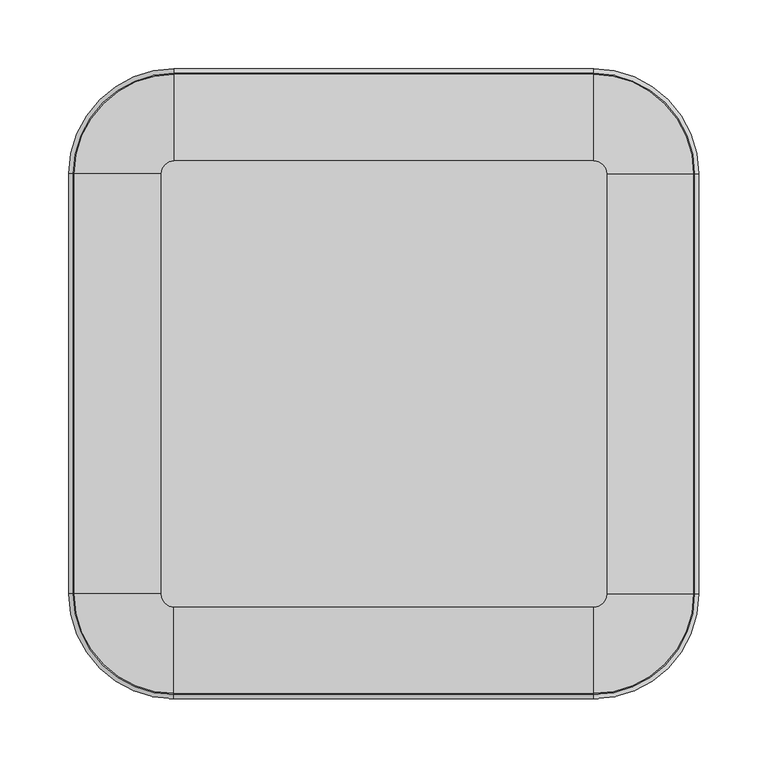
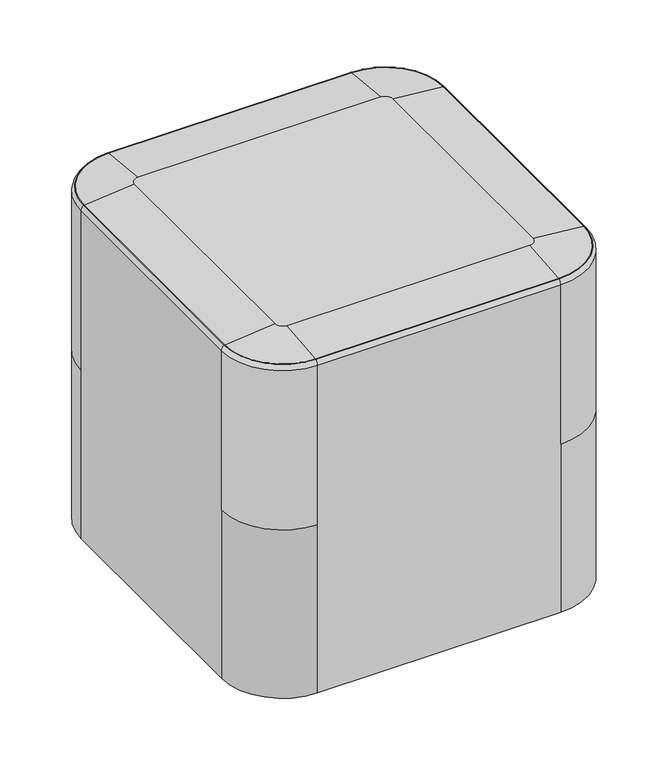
"""IFC4 building model written with IfcOpenShell, lengths in millimetres: furniture geometry, Indiana-Otty-Ottoman_Square : 840-1818SO."""

from ifc_helpers import new_model, si_unit, point, frame, origin, place, context, project, spatial, polyline, circle_curve, ellipse_curve, trimmed, source, transform, mapped, element, save
from ifc_brep_helpers import plane_surface, cylinder_surface, revolved_surface, advanced_brep


def furniture_ea124245(model_context):
    return source(origin(), model_context, "Body", "AdvancedBrep", [
        advanced_brep(
        [(174.625, -174.625, 19.8875), (174.625, -197.125, 19.8875), (174.625, -152.125, 19.8875), (174.625, -196.6765082, 4.2458827), (174.625, -152.5734918, 4.2458827), (174.625, -192.1913665, -0.1125), (174.625, -157.0586335, -0.1125), (174.625, -184.8926178, -0.1125), (174.625, -164.3573822, -0.1125), (174.625, -180.9981417, 3.9179615), (174.625, -168.2518583, 3.9179615), (174.625, -174.625, 3.9179615)],
        [
            (0, 1),
            (1, 2, circle_curve(frame((174.625, -174.625, 19.8875), z_axis=(0.0, 0.0, 1.0), x_axis=(0.0, -1.0, 0.0)), 22.5)),
            (2, 0),
            (2, 1, circle_curve(frame((174.625, -174.625, 19.8875), z_axis=(0.0, 0.0, 1.0), x_axis=(0.0, -1.0, 0.0)), 22.5)),
            (1, 3),
            (3, 4, circle_curve(frame((174.625, -174.625, 4.2458827), z_axis=(0.0, 0.0, 1.0), x_axis=(0.0, -1.0, 0.0)), 22.0515082)),
            (4, 2),
            (4, 3, circle_curve(frame((174.625, -174.625, 4.2458827), z_axis=(0.0, 0.0, 1.0), x_axis=(0.0, -1.0, 0.0)), 22.0515082)),
            (3, 5, circle_curve(frame((174.625, -192.1913665, 4.3744851), z_axis=(1.0, 0.0, 0.0), x_axis=(0.0, 1.0, 0.0)), 4.4869851)),
            (5, 6, circle_curve(frame((174.625, -174.625, -0.1125), z_axis=(0.0, 0.0, 1.0), x_axis=(0.0, -1.0, 0.0)), 17.5663665)),
            (6, 4, circle_curve(frame((174.625, -157.0586335, 4.3744851), z_axis=(1.0, 0.0, 0.0), x_axis=(0.0, -1.0, 0.0)), 4.4869851)),
            (6, 5, circle_curve(frame((174.625, -174.625, -0.1125), z_axis=(0.0, 0.0, 1.0), x_axis=(0.0, -1.0, 0.0)), 17.5663665)),
            (5, 7),
            (7, 8, circle_curve(frame((174.625, -174.625, -0.1125), z_axis=(0.0, 0.0, 1.0), x_axis=(0.0, -1.0, 0.0)), 10.2676178)),
            (8, 6),
            (8, 7, circle_curve(frame((174.625, -174.625, -0.1125), z_axis=(0.0, 0.0, 1.0), x_axis=(0.0, -1.0, 0.0)), 10.2676178)),
            (7, 9, circle_curve(frame((174.625, -184.8926178, 3.7842702), z_axis=(1.0, 0.0, 0.0), x_axis=(0.0, 1.0, 0.0)), 3.8967702)),
            (9, 10, circle_curve(frame((174.625, -174.625, 3.9179615), z_axis=(0.0, 0.0, 1.0), x_axis=(0.0, -1.0, 0.0)), 6.3731417)),
            (10, 8, circle_curve(frame((174.625, -164.3573822, 3.7842702), z_axis=(1.0, 0.0, 0.0), x_axis=(0.0, -1.0, 0.0)), 3.8967702)),
            (10, 9, circle_curve(frame((174.625, -174.625, 3.9179615), z_axis=(0.0, 0.0, 1.0), x_axis=(0.0, -1.0, 0.0)), 6.3731417)),
            (9, 11),
            (11, 10),
        ],
        [
            plane_surface(frame((174.625, -174.625, 19.8875), z_axis=(0.0, 0.0, 1.0), x_axis=(0.0, -1.0, 0.0))),
            revolved_surface(polyline([(174.625, -196.6765082, 4.2458827), (174.625, -197.125, 19.8875)]), (174.625, -174.625, 31.0803862), (0.0, 0.0, 1.0)),
            revolved_surface(trimmed(ellipse_curve(frame((174.625, -192.1913665, 4.3744851), z_axis=(-1.0, 0.0, 0.0), x_axis=(0.0, 1.0, 0.0)), 4.4869851, 4.4869851), [point((174.625, -192.1913665, -0.1125))], [point((174.625, -196.6765082, 4.2458827))], True, "CARTESIAN"), (174.625, -174.625, 31.0803862), (0.0, 0.0, 1.0)),
            plane_surface(frame((174.625, -174.625, -0.1125), z_axis=(0.0, 0.0, -1.0), x_axis=(0.0, -1.0, 0.0))),
            revolved_surface(trimmed(ellipse_curve(frame((174.625, -184.8926178, 3.7842702), z_axis=(-1.0, 0.0, 0.0), x_axis=(0.0, 1.0, 0.0)), 3.8967702, 3.8967702), [point((174.625, -180.9981417, 3.9179615))], [point((174.625, -184.8926178, -0.1125))], True, "CARTESIAN"), (174.625, -174.625, 31.0803862), (0.0, 0.0, 1.0)),
            plane_surface(frame((174.625, -174.625, 3.9179615), z_axis=(0.0, 0.0, -1.0), x_axis=(0.0, -1.0, 0.0))),
        ],
        [
            (0, [[1, 2, 3]]),
            (0, [[-3, 4, -1]]),
            (1, [[-2, 5, 6, 7]]),
            (1, [[-4, -7, 8, -5]]),
            (2, [[-6, 9, 10, 11]]),
            (2, [[-8, -11, 12, -9]]),
            (3, [[-10, 13, 14, 15]]),
            (3, [[-12, -15, 16, -13]]),
            (4, [[-14, 17, 18, 19]]),
            (4, [[-16, -19, 20, -17]]),
            (5, [[-18, 21, 22]]),
            (5, [[-20, -22, -21]]),
        ],
    ),
        advanced_brep(
        [(174.625, 174.625, 19.8875), (174.625, 152.125, 19.8875), (174.625, 197.125, 19.8875), (174.625, 152.5734918, 4.2458827), (174.625, 196.6765082, 4.2458827), (174.625, 157.0586335, -0.1125), (174.625, 192.1913665, -0.1125), (174.625, 164.3573822, -0.1125), (174.625, 184.8926178, -0.1125), (174.625, 168.2518583, 3.9179615), (174.625, 180.9981417, 3.9179615), (174.625, 174.625, 3.9179615)],
        [
            (0, 1),
            (1, 2, circle_curve(frame((174.625, 174.625, 19.8875), z_axis=(0.0, 0.0, 1.0), x_axis=(0.0, -1.0, 0.0)), 22.5)),
            (2, 0),
            (2, 1, circle_curve(frame((174.625, 174.625, 19.8875), z_axis=(0.0, 0.0, 1.0), x_axis=(0.0, -1.0, 0.0)), 22.5)),
            (1, 3),
            (3, 4, circle_curve(frame((174.625, 174.625, 4.2458827), z_axis=(0.0, 0.0, 1.0), x_axis=(0.0, -1.0, 0.0)), 22.0515082)),
            (4, 2),
            (4, 3, circle_curve(frame((174.625, 174.625, 4.2458827), z_axis=(0.0, 0.0, 1.0), x_axis=(0.0, -1.0, 0.0)), 22.0515082)),
            (3, 5, circle_curve(frame((174.625, 157.0586335, 4.3744851), z_axis=(1.0, 0.0, 0.0), x_axis=(0.0, 1.0, 0.0)), 4.4869851)),
            (5, 6, circle_curve(frame((174.625, 174.625, -0.1125), z_axis=(0.0, 0.0, 1.0), x_axis=(0.0, -1.0, 0.0)), 17.5663665)),
            (6, 4, circle_curve(frame((174.625, 192.1913665, 4.3744851), z_axis=(1.0, 0.0, 0.0), x_axis=(0.0, -1.0, 0.0)), 4.4869851)),
            (6, 5, circle_curve(frame((174.625, 174.625, -0.1125), z_axis=(0.0, 0.0, 1.0), x_axis=(0.0, -1.0, 0.0)), 17.5663665)),
            (5, 7),
            (7, 8, circle_curve(frame((174.625, 174.625, -0.1125), z_axis=(0.0, 0.0, 1.0), x_axis=(0.0, -1.0, 0.0)), 10.2676178)),
            (8, 6),
            (8, 7, circle_curve(frame((174.625, 174.625, -0.1125), z_axis=(0.0, 0.0, 1.0), x_axis=(0.0, -1.0, 0.0)), 10.2676178)),
            (7, 9, circle_curve(frame((174.625, 164.3573822, 3.7842702), z_axis=(1.0, 0.0, 0.0), x_axis=(0.0, 1.0, 0.0)), 3.8967702)),
            (9, 10, circle_curve(frame((174.625, 174.625, 3.9179615), z_axis=(0.0, 0.0, 1.0), x_axis=(0.0, -1.0, 0.0)), 6.3731417)),
            (10, 8, circle_curve(frame((174.625, 184.8926178, 3.7842702), z_axis=(1.0, 0.0, 0.0), x_axis=(0.0, -1.0, 0.0)), 3.8967702)),
            (10, 9, circle_curve(frame((174.625, 174.625, 3.9179615), z_axis=(0.0, 0.0, 1.0), x_axis=(0.0, -1.0, 0.0)), 6.3731417)),
            (9, 11),
            (11, 10),
        ],
        [
            plane_surface(frame((174.625, 174.625, 19.8875), z_axis=(0.0, 0.0, 1.0), x_axis=(0.0, -1.0, 0.0))),
            revolved_surface(polyline([(174.625, 152.5734918, 4.2458827), (174.625, 152.125, 19.8875)]), (174.625, 174.625, 31.0803862), (0.0, 0.0, 1.0)),
            revolved_surface(trimmed(ellipse_curve(frame((174.625, 157.0586335, 4.3744851), z_axis=(-1.0, 0.0, 0.0), x_axis=(0.0, 1.0, 0.0)), 4.4869851, 4.4869851), [point((174.625, 157.0586335, -0.1125))], [point((174.625, 152.5734918, 4.2458827))], True, "CARTESIAN"), (174.625, 174.625, 31.0803862), (0.0, 0.0, 1.0)),
            plane_surface(frame((174.625, 174.625, -0.1125), z_axis=(0.0, 0.0, -1.0), x_axis=(0.0, -1.0, 0.0))),
            revolved_surface(trimmed(ellipse_curve(frame((174.625, 164.3573822, 3.7842702), z_axis=(-1.0, 0.0, 0.0), x_axis=(0.0, 1.0, 0.0)), 3.8967702, 3.8967702), [point((174.625, 168.2518583, 3.9179615))], [point((174.625, 164.3573822, -0.1125))], True, "CARTESIAN"), (174.625, 174.625, 31.0803862), (0.0, 0.0, 1.0)),
            plane_surface(frame((174.625, 174.625, 3.9179615), z_axis=(0.0, 0.0, -1.0), x_axis=(0.0, -1.0, 0.0))),
        ],
        [
            (0, [[1, 2, 3]]),
            (0, [[-3, 4, -1]]),
            (1, [[-2, 5, 6, 7]]),
            (1, [[-4, -7, 8, -5]]),
            (2, [[-6, 9, 10, 11]]),
            (2, [[-8, -11, 12, -9]]),
            (3, [[-10, 13, 14, 15]]),
            (3, [[-12, -15, 16, -13]]),
            (4, [[-14, 17, 18, 19]]),
            (4, [[-16, -19, 20, -17]]),
            (5, [[-18, 21, 22]]),
            (5, [[-20, -22, -21]]),
        ],
    ),
        advanced_brep(
        [(-174.625, -174.625, 19.8875), (-174.625, -197.125, 19.8875), (-174.625, -152.125, 19.8875), (-174.625, -196.6765082, 4.2458827), (-174.625, -152.5734918, 4.2458827), (-174.625, -192.1913665, -0.1125), (-174.625, -157.0586335, -0.1125), (-174.625, -184.8926178, -0.1125), (-174.625, -164.3573822, -0.1125), (-174.625, -180.9981417, 3.9179615), (-174.625, -168.2518583, 3.9179615), (-174.625, -174.625, 3.9179615)],
        [
            (0, 1),
            (1, 2, circle_curve(frame((-174.625, -174.625, 19.8875), z_axis=(0.0, 0.0, 1.0), x_axis=(0.0, -1.0, 0.0)), 22.5)),
            (2, 0),
            (2, 1, circle_curve(frame((-174.625, -174.625, 19.8875), z_axis=(0.0, 0.0, 1.0), x_axis=(0.0, -1.0, 0.0)), 22.5)),
            (1, 3),
            (3, 4, circle_curve(frame((-174.625, -174.625, 4.2458827), z_axis=(0.0, 0.0, 1.0), x_axis=(0.0, -1.0, 0.0)), 22.0515082)),
            (4, 2),
            (4, 3, circle_curve(frame((-174.625, -174.625, 4.2458827), z_axis=(0.0, 0.0, 1.0), x_axis=(0.0, -1.0, 0.0)), 22.0515082)),
            (3, 5, circle_curve(frame((-174.625, -192.1913665, 4.3744851), z_axis=(1.0, 0.0, 0.0), x_axis=(0.0, 1.0, 0.0)), 4.4869851)),
            (5, 6, circle_curve(frame((-174.625, -174.625, -0.1125), z_axis=(0.0, 0.0, 1.0), x_axis=(0.0, -1.0, 0.0)), 17.5663665)),
            (6, 4, circle_curve(frame((-174.625, -157.0586335, 4.3744851), z_axis=(1.0, 0.0, 0.0), x_axis=(0.0, -1.0, 0.0)), 4.4869851)),
            (6, 5, circle_curve(frame((-174.625, -174.625, -0.1125), z_axis=(0.0, 0.0, 1.0), x_axis=(0.0, -1.0, 0.0)), 17.5663665)),
            (5, 7),
            (7, 8, circle_curve(frame((-174.625, -174.625, -0.1125), z_axis=(0.0, 0.0, 1.0), x_axis=(0.0, -1.0, 0.0)), 10.2676178)),
            (8, 6),
            (8, 7, circle_curve(frame((-174.625, -174.625, -0.1125), z_axis=(0.0, 0.0, 1.0), x_axis=(0.0, -1.0, 0.0)), 10.2676178)),
            (7, 9, circle_curve(frame((-174.625, -184.8926178, 3.7842702), z_axis=(1.0, 0.0, 0.0), x_axis=(0.0, 1.0, 0.0)), 3.8967702)),
            (9, 10, circle_curve(frame((-174.625, -174.625, 3.9179615), z_axis=(0.0, 0.0, 1.0), x_axis=(0.0, -1.0, 0.0)), 6.3731417)),
            (10, 8, circle_curve(frame((-174.625, -164.3573822, 3.7842702), z_axis=(1.0, 0.0, 0.0), x_axis=(0.0, -1.0, 0.0)), 3.8967702)),
            (10, 9, circle_curve(frame((-174.625, -174.625, 3.9179615), z_axis=(0.0, 0.0, 1.0), x_axis=(0.0, -1.0, 0.0)), 6.3731417)),
            (9, 11),
            (11, 10),
        ],
        [
            plane_surface(frame((-174.625, -174.625, 19.8875), z_axis=(0.0, 0.0, 1.0), x_axis=(0.0, -1.0, 0.0))),
            revolved_surface(polyline([(-174.625, -196.6765082, 4.2458827), (-174.625, -197.125, 19.8875)]), (-174.625, -174.625, 31.0803862), (0.0, 0.0, 1.0)),
            revolved_surface(trimmed(ellipse_curve(frame((-174.625, -192.1913665, 4.3744851), z_axis=(-1.0, 0.0, 0.0), x_axis=(0.0, 1.0, 0.0)), 4.4869851, 4.4869851), [point((-174.625, -192.1913665, -0.1125))], [point((-174.625, -196.6765082, 4.2458827))], True, "CARTESIAN"), (-174.625, -174.625, 31.0803862), (0.0, 0.0, 1.0)),
            plane_surface(frame((-174.625, -174.625, -0.1125), z_axis=(0.0, 0.0, -1.0), x_axis=(0.0, -1.0, 0.0))),
            revolved_surface(trimmed(ellipse_curve(frame((-174.625, -184.8926178, 3.7842702), z_axis=(-1.0, 0.0, 0.0), x_axis=(0.0, 1.0, 0.0)), 3.8967702, 3.8967702), [point((-174.625, -180.9981417, 3.9179615))], [point((-174.625, -184.8926178, -0.1125))], True, "CARTESIAN"), (-174.625, -174.625, 31.0803862), (0.0, 0.0, 1.0)),
            plane_surface(frame((-174.625, -174.625, 3.9179615), z_axis=(0.0, 0.0, -1.0), x_axis=(0.0, -1.0, 0.0))),
        ],
        [
            (0, [[1, 2, 3]]),
            (0, [[-3, 4, -1]]),
            (1, [[-2, 5, 6, 7]]),
            (1, [[-4, -7, 8, -5]]),
            (2, [[-6, 9, 10, 11]]),
            (2, [[-8, -11, 12, -9]]),
            (3, [[-10, 13, 14, 15]]),
            (3, [[-12, -15, 16, -13]]),
            (4, [[-14, 17, 18, 19]]),
            (4, [[-16, -19, 20, -17]]),
            (5, [[-18, 21, 22]]),
            (5, [[-20, -22, -21]]),
        ],
    ),
        advanced_brep(
        [(-174.625, 174.625, 19.8875), (-174.625, 152.125, 19.8875), (-174.625, 197.125, 19.8875), (-174.625, 152.5734918, 4.2458827), (-174.625, 196.6765082, 4.2458827), (-174.625, 157.0586335, -0.1125), (-174.625, 192.1913665, -0.1125), (-174.625, 164.3573822, -0.1125), (-174.625, 184.8926178, -0.1125), (-174.625, 168.2518583, 3.9179615), (-174.625, 180.9981417, 3.9179615), (-174.625, 174.625, 3.9179615)],
        [
            (0, 1),
            (1, 2, circle_curve(frame((-174.625, 174.625, 19.8875), z_axis=(0.0, 0.0, 1.0), x_axis=(0.0, -1.0, 0.0)), 22.5)),
            (2, 0),
            (2, 1, circle_curve(frame((-174.625, 174.625, 19.8875), z_axis=(0.0, 0.0, 1.0), x_axis=(0.0, -1.0, 0.0)), 22.5)),
            (1, 3),
            (3, 4, circle_curve(frame((-174.625, 174.625, 4.2458827), z_axis=(0.0, 0.0, 1.0), x_axis=(0.0, -1.0, 0.0)), 22.0515082)),
            (4, 2),
            (4, 3, circle_curve(frame((-174.625, 174.625, 4.2458827), z_axis=(0.0, 0.0, 1.0), x_axis=(0.0, -1.0, 0.0)), 22.0515082)),
            (3, 5, circle_curve(frame((-174.625, 157.0586335, 4.3744851), z_axis=(1.0, 0.0, 0.0), x_axis=(0.0, 1.0, 0.0)), 4.4869851)),
            (5, 6, circle_curve(frame((-174.625, 174.625, -0.1125), z_axis=(0.0, 0.0, 1.0), x_axis=(0.0, -1.0, 0.0)), 17.5663665)),
            (6, 4, circle_curve(frame((-174.625, 192.1913665, 4.3744851), z_axis=(1.0, 0.0, 0.0), x_axis=(0.0, -1.0, 0.0)), 4.4869851)),
            (6, 5, circle_curve(frame((-174.625, 174.625, -0.1125), z_axis=(0.0, 0.0, 1.0), x_axis=(0.0, -1.0, 0.0)), 17.5663665)),
            (5, 7),
            (7, 8, circle_curve(frame((-174.625, 174.625, -0.1125), z_axis=(0.0, 0.0, 1.0), x_axis=(0.0, -1.0, 0.0)), 10.2676178)),
            (8, 6),
            (8, 7, circle_curve(frame((-174.625, 174.625, -0.1125), z_axis=(0.0, 0.0, 1.0), x_axis=(0.0, -1.0, 0.0)), 10.2676178)),
            (7, 9, circle_curve(frame((-174.625, 164.3573822, 3.7842702), z_axis=(1.0, 0.0, 0.0), x_axis=(0.0, 1.0, 0.0)), 3.8967702)),
            (9, 10, circle_curve(frame((-174.625, 174.625, 3.9179615), z_axis=(0.0, 0.0, 1.0), x_axis=(0.0, -1.0, 0.0)), 6.3731417)),
            (10, 8, circle_curve(frame((-174.625, 184.8926178, 3.7842702), z_axis=(1.0, 0.0, 0.0), x_axis=(0.0, -1.0, 0.0)), 3.8967702)),
            (10, 9, circle_curve(frame((-174.625, 174.625, 3.9179615), z_axis=(0.0, 0.0, 1.0), x_axis=(0.0, -1.0, 0.0)), 6.3731417)),
            (9, 11),
            (11, 10),
        ],
        [
            plane_surface(frame((-174.625, 174.625, 19.8875), z_axis=(0.0, 0.0, 1.0), x_axis=(0.0, -1.0, 0.0))),
            revolved_surface(polyline([(-174.625, 152.5734918, 4.2458827), (-174.625, 152.125, 19.8875)]), (-174.625, 174.625, 31.0803862), (0.0, 0.0, 1.0)),
            revolved_surface(trimmed(ellipse_curve(frame((-174.625, 157.0586335, 4.3744851), z_axis=(-1.0, 0.0, 0.0), x_axis=(0.0, 1.0, 0.0)), 4.4869851, 4.4869851), [point((-174.625, 157.0586335, -0.1125))], [point((-174.625, 152.5734918, 4.2458827))], True, "CARTESIAN"), (-174.625, 174.625, 31.0803862), (0.0, 0.0, 1.0)),
            plane_surface(frame((-174.625, 174.625, -0.1125), z_axis=(0.0, 0.0, -1.0), x_axis=(0.0, -1.0, 0.0))),
            revolved_surface(trimmed(ellipse_curve(frame((-174.625, 164.3573822, 3.7842702), z_axis=(-1.0, 0.0, 0.0), x_axis=(0.0, 1.0, 0.0)), 3.8967702, 3.8967702), [point((-174.625, 168.2518583, 3.9179615))], [point((-174.625, 164.3573822, -0.1125))], True, "CARTESIAN"), (-174.625, 174.625, 31.0803862), (0.0, 0.0, 1.0)),
            plane_surface(frame((-174.625, 174.625, 3.9179615), z_axis=(0.0, 0.0, -1.0), x_axis=(0.0, -1.0, 0.0))),
        ],
        [
            (0, [[1, 2, 3]]),
            (0, [[-3, 4, -1]]),
            (1, [[-2, 5, 6, 7]]),
            (1, [[-4, -7, 8, -5]]),
            (2, [[-6, 9, 10, 11]]),
            (2, [[-8, -11, 12, -9]]),
            (3, [[-10, 13, 14, 15]]),
            (3, [[-12, -15, 16, -13]]),
            (4, [[-14, 17, 18, 19]]),
            (4, [[-16, -19, 20, -17]]),
            (5, [[-18, 21, 22]]),
            (5, [[-20, -22, -21]]),
        ],
    ),
        advanced_brep(
        [(224.6, 152.4, 451.1999966), (152.4, 224.6, 451.1999966), (152.4, 161.925, 457.2), (161.925, 152.4, 457.2), (225.3317905, 152.4, 451.4073863), (152.4, 225.3317905, 451.4073863), (228.6, 152.4, 445.2), (152.4, 228.6, 445.2), (228.6, 152.4, 234.35), (152.4, 228.6, 234.35), (161.925, -152.4, 457.2), (224.6, -152.4, 451.1999966), (225.3317905, -152.4, 451.4073863), (228.6, -152.4, 445.2), (228.6, -152.4, 234.35), (228.6, -152.4, 11.5), (228.6, 152.4, 11.5), (152.4, -161.925, 457.2), (152.4, -224.6, 451.1999966), (152.4, -225.3317905, 451.4073863), (152.4, -228.6, 445.2), (152.4, -228.6, 234.35), (-152.4, -161.925, 457.2), (-152.4, -224.6, 451.1999966), (-152.4, -225.3317905, 451.4073863), (-152.4, -228.6, 445.2), (-152.4, -228.6, 234.35), (-152.4, -228.6, 11.5), (152.4, -228.6, 11.5), (-161.925, -152.4, 457.2), (-224.6, -152.4, 451.1999966), (-225.3317905, -152.4, 451.4073863), (-228.6, -152.4, 445.2), (-228.6, -152.4, 234.35), (-161.925, 152.4, 457.2), (-224.6, 152.4, 451.1999966), (-225.3317905, 152.4, 451.4073863), (-228.6, 152.4, 445.2), (-228.6, 152.4, 234.35), (-228.6, 152.4, 11.5), (-228.6, -152.4, 11.5), (-152.4, 161.925, 457.2), (-152.4, 224.6, 451.1999966), (-152.4, 225.3317905, 451.4073863), (-152.4, 228.6, 445.2), (-152.4, 228.6, 234.35), (152.4, 228.6, 11.5), (-152.4, 228.6, 11.5), (-197.64375, -174.625, 11.5), (-151.60625, -174.625, 11.5), (-197.64375, 174.625, 11.5), (-151.60625, 174.625, 11.5), (151.60625, 174.625, 11.5), (197.64375, 174.625, 11.5), (151.60625, -174.625, 11.5), (197.64375, -174.625, 11.5), (-0.396875, 174.625, 11.5), (0.396875, 174.625, 11.5), (-0.396875, -174.625, 11.5), (0.396875, -174.625, 11.5), (-151.60625, -174.625, 19.834375), (-197.64375, -174.625, 19.834375), (-151.60625, 174.625, 19.834375), (-197.64375, 174.625, 19.834375), (151.60625, 174.625, 19.834375), (197.64375, 174.625, 19.834375), (151.60625, -174.625, 19.834375), (197.64375, -174.625, 19.834375), (-0.396875, 174.625, 11.896875), (0.396875, 174.625, 11.896875), (-0.396875, -174.625, 11.896875), (0.396875, -174.625, 11.896875)],
        [
            (0, 1, circle_curve(frame((152.4, 152.4, 451.1999966), z_axis=(0.0, 0.0, 1.0), x_axis=(0.0, 1.0, 0.0)), 72.2)),
            (1, 2, circle_curve(frame((152.4, 161.925, 126.8538794), z_axis=(1.0, 0.0, 0.0), x_axis=(0.0, 1.0, 0.0)), 330.3461206)),
            (2, 3, circle_curve(frame((152.4, 152.4, 457.2), z_axis=(0.0, 0.0, -1.0), x_axis=(0.0, 1.0, 0.0)), 9.525)),
            (3, 0, circle_curve(frame((161.925, 152.4, 126.8538794), z_axis=(0.0, 1.0, 0.0), x_axis=(1.0, 0.0, 0.0)), 330.3461206)),
            (0, 4, circle_curve(frame((225.0520185, 152.4, 450.999799), z_axis=(0.0, 1.0, 0.0), x_axis=(1.0, 0.0, 0.0)), 0.4943681)),
            (4, 5, circle_curve(frame((152.4, 152.4, 451.4073863), z_axis=(0.0, 0.0, 1.0), x_axis=(0.0, 1.0, 0.0)), 72.9317905)),
            (5, 1, circle_curve(frame((152.4, 225.0520185, 450.999799), z_axis=(1.0, 0.0, 0.0), x_axis=(0.0, 1.0, 0.0)), 0.4943681)),
            (4, 6, circle_curve(frame((221.0709786, 152.4, 445.2), z_axis=(0.0, 1.0, 0.0), x_axis=(1.0, 0.0, 0.0)), 7.5290214)),
            (6, 7, circle_curve(frame((152.4, 152.4, 445.2), z_axis=(0.0, 0.0, 1.0), x_axis=(0.0, 1.0, 0.0)), 76.2)),
            (7, 5, circle_curve(frame((152.4, 221.0709786, 445.2), z_axis=(1.0, 0.0, 0.0), x_axis=(0.0, 1.0, 0.0)), 7.5290214)),
            (6, 8),
            (8, 9, circle_curve(frame((152.4, 152.4, 234.35), z_axis=(0.0, 0.0, 1.0), x_axis=(0.0, 1.0, 0.0)), 76.2)),
            (9, 7),
            (3, 10),
            (10, 11, circle_curve(frame((161.925, -152.4, 126.8538794), z_axis=(0.0, 1.0, 0.0), x_axis=(1.0, 0.0, 0.0)), 330.3461206)),
            (11, 0),
            (11, 12, circle_curve(frame((225.0520185, -152.4, 450.999799), z_axis=(0.0, 1.0, 0.0), x_axis=(1.0, 0.0, 0.0)), 0.4943681)),
            (12, 4),
            (12, 13, circle_curve(frame((221.0709786, -152.4, 445.2), z_axis=(0.0, 1.0, 0.0), x_axis=(1.0, 0.0, 0.0)), 7.5290214)),
            (13, 6),
            (13, 14),
            (14, 15),
            (15, 16),
            (16, 8),
            (10, 17, circle_curve(frame((152.4, -152.4, 457.2), z_axis=(0.0, 0.0, -1.0), x_axis=(1.0, 0.0, 0.0)), 9.525)),
            (17, 18, circle_curve(frame((152.4, -161.925, 126.8538794), z_axis=(1.0, 0.0, 0.0), x_axis=(0.0, -1.0, 0.0)), 330.3461206)),
            (18, 11, circle_curve(frame((152.4, -152.4, 451.1999966), z_axis=(0.0, 0.0, 1.0), x_axis=(1.0, 0.0, 0.0)), 72.2)),
            (18, 19, circle_curve(frame((152.4, -225.0520185, 450.999799), z_axis=(1.0, 0.0, 0.0), x_axis=(0.0, -1.0, 0.0)), 0.4943681)),
            (19, 12, circle_curve(frame((152.4, -152.4, 451.4073863), z_axis=(0.0, 0.0, 1.0), x_axis=(1.0, 0.0, 0.0)), 72.9317905)),
            (19, 20, circle_curve(frame((152.4, -221.0709786, 445.2), z_axis=(1.0, 0.0, 0.0), x_axis=(0.0, -1.0, 0.0)), 7.5290214)),
            (20, 13, circle_curve(frame((152.4, -152.4, 445.2), z_axis=(0.0, 0.0, 1.0), x_axis=(1.0, 0.0, 0.0)), 76.2)),
            (20, 21),
            (21, 14, circle_curve(frame((152.4, -152.4, 234.35), z_axis=(0.0, 0.0, 1.0), x_axis=(1.0, 0.0, 0.0)), 76.2)),
            (17, 22),
            (22, 23, circle_curve(frame((-152.4, -161.925, 126.8538794), z_axis=(1.0, 0.0, 0.0), x_axis=(0.0, -1.0, 0.0)), 330.3461206)),
            (23, 18),
            (23, 24, circle_curve(frame((-152.4, -225.0520185, 450.999799), z_axis=(1.0, 0.0, 0.0), x_axis=(0.0, -1.0, 0.0)), 0.4943681)),
            (24, 19),
            (24, 25, circle_curve(frame((-152.4, -221.0709786, 445.2), z_axis=(1.0, 0.0, 0.0), x_axis=(0.0, -1.0, 0.0)), 7.5290214)),
            (25, 20),
            (25, 26),
            (26, 27),
            (27, 28),
            (28, 21),
            (22, 29, circle_curve(frame((-152.4, -152.4, 457.2), z_axis=(0.0, 0.0, -1.0), x_axis=(0.0, -1.0, 0.0)), 9.525)),
            (29, 30, circle_curve(frame((-161.925, -152.4, 126.8538794), z_axis=(0.0, -1.0, 0.0), x_axis=(-1.0, 0.0, 0.0)), 330.3461206)),
            (30, 23, circle_curve(frame((-152.4, -152.4, 451.1999966), z_axis=(0.0, 0.0, 1.0), x_axis=(0.0, -1.0, 0.0)), 72.2)),
            (30, 31, circle_curve(frame((-225.0520185, -152.4, 450.999799), z_axis=(0.0, -1.0, 0.0), x_axis=(-1.0, 0.0, 0.0)), 0.4943681)),
            (31, 24, circle_curve(frame((-152.4, -152.4, 451.4073863), z_axis=(0.0, 0.0, 1.0), x_axis=(0.0, -1.0, 0.0)), 72.9317905)),
            (31, 32, circle_curve(frame((-221.0709786, -152.4, 445.2), z_axis=(0.0, -1.0, 0.0), x_axis=(-1.0, 0.0, 0.0)), 7.5290214)),
            (32, 25, circle_curve(frame((-152.4, -152.4, 445.2), z_axis=(0.0, 0.0, 1.0), x_axis=(0.0, -1.0, 0.0)), 76.2)),
            (32, 33),
            (33, 26, circle_curve(frame((-152.4, -152.4, 234.35), z_axis=(0.0, 0.0, 1.0), x_axis=(0.0, -1.0, 0.0)), 76.2)),
            (29, 34),
            (34, 35, circle_curve(frame((-161.925, 152.4, 126.8538794), z_axis=(0.0, -1.0, 0.0), x_axis=(-1.0, 0.0, 0.0)), 330.3461206)),
            (35, 30),
            (35, 36, circle_curve(frame((-225.0520185, 152.4, 450.999799), z_axis=(0.0, -1.0, 0.0), x_axis=(-1.0, 0.0, 0.0)), 0.4943681)),
            (36, 31),
            (36, 37, circle_curve(frame((-221.0709786, 152.4, 445.2), z_axis=(0.0, -1.0, 0.0), x_axis=(-1.0, 0.0, 0.0)), 7.5290214)),
            (37, 32),
            (37, 38),
            (38, 39),
            (39, 40),
            (40, 33),
            (34, 41, circle_curve(frame((-152.4, 152.4, 457.2), z_axis=(0.0, 0.0, -1.0), x_axis=(-1.0, 0.0, 0.0)), 9.525)),
            (41, 42, circle_curve(frame((-152.4, 161.925, 126.8538794), z_axis=(-1.0, 0.0, 0.0), x_axis=(0.0, 1.0, 0.0)), 330.3461206)),
            (42, 35, circle_curve(frame((-152.4, 152.4, 451.1999966), z_axis=(0.0, 0.0, 1.0), x_axis=(-1.0, 0.0, 0.0)), 72.2)),
            (42, 43, circle_curve(frame((-152.4, 225.0520185, 450.999799), z_axis=(-1.0, 0.0, 0.0), x_axis=(0.0, 1.0, 0.0)), 0.4943681)),
            (43, 36, circle_curve(frame((-152.4, 152.4, 451.4073863), z_axis=(0.0, 0.0, 1.0), x_axis=(-1.0, 0.0, 0.0)), 72.9317905)),
            (43, 44, circle_curve(frame((-152.4, 221.0709786, 445.2), z_axis=(-1.0, 0.0, 0.0), x_axis=(0.0, 1.0, 0.0)), 7.5290214)),
            (44, 37, circle_curve(frame((-152.4, 152.4, 445.2), z_axis=(0.0, 0.0, 1.0), x_axis=(-1.0, 0.0, 0.0)), 76.2)),
            (44, 45),
            (45, 38, circle_curve(frame((-152.4, 152.4, 234.35), z_axis=(0.0, 0.0, 1.0), x_axis=(-1.0, 0.0, 0.0)), 76.2)),
            (2, 41),
            (1, 42),
            (5, 43),
            (7, 44),
            (9, 46),
            (46, 47),
            (47, 45),
            (46, 16, circle_curve(frame((152.4, 152.4, 11.5), z_axis=(0.0, 0.0, -1.0), x_axis=(1.0, 0.0, 0.0)), 76.2)),
            (15, 28, circle_curve(frame((152.4, -152.4, 11.5), z_axis=(0.0, 0.0, -1.0), x_axis=(1.0, 0.0, 0.0)), 76.2)),
            (27, 40, circle_curve(frame((-152.4, -152.4, 11.5), z_axis=(0.0, 0.0, -1.0), x_axis=(1.0, 0.0, 0.0)), 76.2)),
            (39, 47, circle_curve(frame((-152.4, 152.4, 11.5), z_axis=(0.0, 0.0, -1.0), x_axis=(1.0, 0.0, 0.0)), 76.2)),
            (48, 49, circle_curve(frame((-174.625, -174.625, 11.5), z_axis=(0.0, 0.0, 1.0), x_axis=(-1.0, 0.0, 0.0)), 23.01875)),
            (49, 48, circle_curve(frame((-174.625, -174.625, 11.5), z_axis=(0.0, 0.0, 1.0), x_axis=(-1.0, 0.0, 0.0)), 23.01875)),
            (50, 51, circle_curve(frame((-174.625, 174.625, 11.5), z_axis=(0.0, 0.0, 1.0), x_axis=(-1.0, 0.0, 0.0)), 23.01875)),
            (51, 50, circle_curve(frame((-174.625, 174.625, 11.5), z_axis=(0.0, 0.0, 1.0), x_axis=(-1.0, 0.0, 0.0)), 23.01875)),
            (52, 53, circle_curve(frame((174.625, 174.625, 11.5), z_axis=(0.0, 0.0, 1.0), x_axis=(-1.0, 0.0, 0.0)), 23.01875)),
            (53, 52, circle_curve(frame((174.625, 174.625, 11.5), z_axis=(0.0, 0.0, 1.0), x_axis=(-1.0, 0.0, 0.0)), 23.01875)),
            (54, 55, circle_curve(frame((174.625, -174.625, 11.5), z_axis=(0.0, 0.0, 1.0), x_axis=(-1.0, 0.0, 0.0)), 23.01875)),
            (55, 54, circle_curve(frame((174.625, -174.625, 11.5), z_axis=(0.0, 0.0, 1.0), x_axis=(-1.0, 0.0, 0.0)), 23.01875)),
            (56, 57, circle_curve(frame((0.0, 174.625, 11.5), z_axis=(0.0, 0.0, 1.0), x_axis=(-1.0, 0.0, 0.0)), 0.396875)),
            (57, 56, circle_curve(frame((0.0, 174.625, 11.5), z_axis=(0.0, 0.0, 1.0), x_axis=(-1.0, 0.0, 0.0)), 0.396875)),
            (58, 59, circle_curve(frame((0.0, -174.625, 11.5), z_axis=(0.0, 0.0, 1.0), x_axis=(-1.0, 0.0, 0.0)), 0.396875)),
            (59, 58, circle_curve(frame((0.0, -174.625, 11.5), z_axis=(0.0, 0.0, 1.0), x_axis=(-1.0, 0.0, 0.0)), 0.396875)),
            (60, 61, circle_curve(frame((-174.625, -174.625, 19.834375), z_axis=(0.0, 0.0, -1.0), x_axis=(-1.0, 0.0, 0.0)), 23.01875)),
            (61, 60, circle_curve(frame((-174.625, -174.625, 19.834375), z_axis=(0.0, 0.0, -1.0), x_axis=(-1.0, 0.0, 0.0)), 23.01875)),
            (48, 61),
            (60, 49),
            (62, 63, circle_curve(frame((-174.625, 174.625, 19.834375), z_axis=(0.0, 0.0, -1.0), x_axis=(-1.0, 0.0, 0.0)), 23.01875)),
            (63, 62, circle_curve(frame((-174.625, 174.625, 19.834375), z_axis=(0.0, 0.0, -1.0), x_axis=(-1.0, 0.0, 0.0)), 23.01875)),
            (50, 63),
            (62, 51),
            (52, 64),
            (64, 65, circle_curve(frame((174.625, 174.625, 19.834375), z_axis=(0.0, 0.0, 1.0), x_axis=(-1.0, 0.0, 0.0)), 23.01875)),
            (65, 53),
            (65, 64, circle_curve(frame((174.625, 174.625, 19.834375), z_axis=(0.0, 0.0, 1.0), x_axis=(-1.0, 0.0, 0.0)), 23.01875)),
            (54, 66),
            (66, 67, circle_curve(frame((174.625, -174.625, 19.834375), z_axis=(0.0, 0.0, 1.0), x_axis=(-1.0, 0.0, 0.0)), 23.01875)),
            (67, 55),
            (67, 66, circle_curve(frame((174.625, -174.625, 19.834375), z_axis=(0.0, 0.0, 1.0), x_axis=(-1.0, 0.0, 0.0)), 23.01875)),
            (56, 68),
            (68, 69, circle_curve(frame((0.0, 174.625, 11.896875), z_axis=(0.0, 0.0, 1.0), x_axis=(-1.0, 0.0, 0.0)), 0.396875)),
            (69, 57),
            (69, 68, circle_curve(frame((0.0, 174.625, 11.896875), z_axis=(0.0, 0.0, 1.0), x_axis=(-1.0, 0.0, 0.0)), 0.396875)),
            (58, 70),
            (70, 71, circle_curve(frame((0.0, -174.625, 11.896875), z_axis=(0.0, 0.0, 1.0), x_axis=(-1.0, 0.0, 0.0)), 0.396875)),
            (71, 59),
            (71, 70, circle_curve(frame((0.0, -174.625, 11.896875), z_axis=(0.0, 0.0, 1.0), x_axis=(-1.0, 0.0, 0.0)), 0.396875)),
        ],
        [
            revolved_surface(trimmed(ellipse_curve(frame((152.4, 161.925, 126.8538794), z_axis=(-1.0, 0.0, 0.0), x_axis=(0.0, 1.0, 0.0)), 330.3461206, 330.3461206), [point((152.4, 161.925, 457.2))], [point((152.4, 224.6, 451.1999966))], True, "CARTESIAN"), (152.4, 152.4, 0.0), (0.0, 0.0, -1.0)),
            revolved_surface(trimmed(ellipse_curve(frame((152.4, 225.0520185, 450.999799), z_axis=(-1.0, 0.0, 0.0), x_axis=(0.0, 1.0, 0.0)), 0.4943681, 0.4943681), [point((152.4, 224.6, 451.1999966))], [point((152.4, 225.3317905, 451.4073863))], True, "CARTESIAN"), (152.4, 152.4, 0.0), (0.0, 0.0, -1.0)),
            revolved_surface(trimmed(ellipse_curve(frame((152.4, 221.0709786, 445.2), z_axis=(-1.0, 0.0, 0.0), x_axis=(0.0, 1.0, 0.0)), 7.5290214, 7.5290214), [point((152.4, 225.3317905, 451.4073863))], [point((152.4, 228.6, 445.2))], True, "CARTESIAN"), (152.4, 152.4, 0.0), (0.0, 0.0, -1.0)),
            cylinder_surface(frame((152.4, 152.4, 0.0), z_axis=(0.0, 0.0, -1.0), x_axis=(0.0, 1.0, 0.0)), 76.2),
            cylinder_surface(frame((161.925, 152.4, 126.8538794), z_axis=(0.0, 1.0, 0.0), x_axis=(1.0, 0.0, 0.0)), 330.3461206),
            cylinder_surface(frame((225.0520185, 152.4, 450.999799), z_axis=(0.0, 1.0, 0.0), x_axis=(1.0, 0.0, 0.0)), 0.4943681),
            cylinder_surface(frame((221.0709786, 152.4, 445.2), z_axis=(0.0, 1.0, 0.0), x_axis=(1.0, 0.0, 0.0)), 7.5290214),
            plane_surface(frame((228.6, 152.4, 445.2), z_axis=(1.0, 0.0, 0.0), x_axis=(0.0, -1.0, 0.0))),
            revolved_surface(trimmed(ellipse_curve(frame((161.925, -152.4, 126.8538794), z_axis=(0.0, 1.0, 0.0), x_axis=(1.0, 0.0, 0.0)), 330.3461206, 330.3461206), [point((161.925, -152.4, 457.2))], [point((224.6, -152.4, 451.1999966))], True, "CARTESIAN"), (152.4, -152.4, 0.0), (0.0, 0.0, -1.0)),
            revolved_surface(trimmed(ellipse_curve(frame((225.0520185, -152.4, 450.999799), z_axis=(0.0, 1.0, 0.0), x_axis=(1.0, 0.0, 0.0)), 0.4943681, 0.4943681), [point((224.6, -152.4, 451.1999966))], [point((225.3317905, -152.4, 451.4073863))], True, "CARTESIAN"), (152.4, -152.4, 0.0), (0.0, 0.0, -1.0)),
            revolved_surface(trimmed(ellipse_curve(frame((221.0709786, -152.4, 445.2), z_axis=(0.0, 1.0, 0.0), x_axis=(1.0, 0.0, 0.0)), 7.5290214, 7.5290214), [point((225.3317905, -152.4, 451.4073863))], [point((228.6, -152.4, 445.2))], True, "CARTESIAN"), (152.4, -152.4, 0.0), (0.0, 0.0, -1.0)),
            cylinder_surface(frame((152.4, -152.4, 0.0), z_axis=(0.0, 0.0, -1.0), x_axis=(1.0, 0.0, 0.0)), 76.2),
            cylinder_surface(frame((152.4, -161.925, 126.8538794), z_axis=(1.0, 0.0, 0.0), x_axis=(0.0, -1.0, 0.0)), 330.3461206),
            cylinder_surface(frame((152.4, -225.0520185, 450.999799), z_axis=(1.0, 0.0, 0.0), x_axis=(0.0, -1.0, 0.0)), 0.4943681),
            cylinder_surface(frame((152.4, -221.0709786, 445.2), z_axis=(1.0, 0.0, 0.0), x_axis=(0.0, -1.0, 0.0)), 7.5290214),
            plane_surface(frame((152.4, -228.6, 445.2), z_axis=(0.0, -1.0, 0.0), x_axis=(-1.0, 0.0, 0.0))),
            revolved_surface(trimmed(ellipse_curve(frame((-152.4, -161.925, 126.8538794), z_axis=(1.0, 0.0, 0.0), x_axis=(0.0, -1.0, 0.0)), 330.3461206, 330.3461206), [point((-152.4, -161.925, 457.2))], [point((-152.4, -224.6, 451.1999966))], True, "CARTESIAN"), (-152.4, -152.4, 0.0), (0.0, 0.0, -1.0)),
            revolved_surface(trimmed(ellipse_curve(frame((-152.4, -225.0520185, 450.999799), z_axis=(1.0, 0.0, 0.0), x_axis=(0.0, -1.0, 0.0)), 0.4943681, 0.4943681), [point((-152.4, -224.6, 451.1999966))], [point((-152.4, -225.3317905, 451.4073863))], True, "CARTESIAN"), (-152.4, -152.4, 0.0), (0.0, 0.0, -1.0)),
            revolved_surface(trimmed(ellipse_curve(frame((-152.4, -221.0709786, 445.2), z_axis=(1.0, 0.0, 0.0), x_axis=(0.0, -1.0, 0.0)), 7.5290214, 7.5290214), [point((-152.4, -225.3317905, 451.4073863))], [point((-152.4, -228.6, 445.2))], True, "CARTESIAN"), (-152.4, -152.4, 0.0), (0.0, 0.0, -1.0)),
            cylinder_surface(frame((-152.4, -152.4, 0.0), z_axis=(0.0, 0.0, -1.0), x_axis=(0.0, -1.0, 0.0)), 76.2),
            cylinder_surface(frame((-161.925, -152.4, 126.8538794), z_axis=(0.0, -1.0, 0.0), x_axis=(-1.0, 0.0, 0.0)), 330.3461206),
            cylinder_surface(frame((-225.0520185, -152.4, 450.999799), z_axis=(0.0, -1.0, 0.0), x_axis=(-1.0, 0.0, 0.0)), 0.4943681),
            cylinder_surface(frame((-221.0709786, -152.4, 445.2), z_axis=(0.0, -1.0, 0.0), x_axis=(-1.0, 0.0, 0.0)), 7.5290214),
            plane_surface(frame((-228.6, -152.4, 445.2), z_axis=(-1.0, 0.0, 0.0), x_axis=(0.0, 1.0, 0.0))),
            revolved_surface(trimmed(ellipse_curve(frame((-161.925, 152.4, 126.8538794), z_axis=(0.0, -1.0, 0.0), x_axis=(-1.0, 0.0, 0.0)), 330.3461206, 330.3461206), [point((-161.925, 152.4, 457.2))], [point((-224.6, 152.4, 451.1999966))], True, "CARTESIAN"), (-152.4, 152.4, 0.0), (0.0, 0.0, -1.0)),
            revolved_surface(trimmed(ellipse_curve(frame((-225.0520185, 152.4, 450.999799), z_axis=(0.0, -1.0, 0.0), x_axis=(-1.0, 0.0, 0.0)), 0.4943681, 0.4943681), [point((-224.6, 152.4, 451.1999966))], [point((-225.3317905, 152.4, 451.4073863))], True, "CARTESIAN"), (-152.4, 152.4, 0.0), (0.0, 0.0, -1.0)),
            revolved_surface(trimmed(ellipse_curve(frame((-221.0709786, 152.4, 445.2), z_axis=(0.0, -1.0, 0.0), x_axis=(-1.0, 0.0, 0.0)), 7.5290214, 7.5290214), [point((-225.3317905, 152.4, 451.4073863))], [point((-228.6, 152.4, 445.2))], True, "CARTESIAN"), (-152.4, 152.4, 0.0), (0.0, 0.0, -1.0)),
            cylinder_surface(frame((-152.4, 152.4, 0.0), z_axis=(0.0, 0.0, -1.0), x_axis=(-1.0, 0.0, 0.0)), 76.2),
            plane_surface(frame((-152.4, 155.575, 457.2), z_axis=(0.0, 0.0, 1.0), x_axis=(1.0, 0.0, 0.0))),
            cylinder_surface(frame((-152.4, 161.925, 126.8538794), z_axis=(-1.0, 0.0, 0.0), x_axis=(0.0, 1.0, 0.0)), 330.3461206),
            cylinder_surface(frame((-152.4, 225.0520185, 450.999799), z_axis=(-1.0, 0.0, 0.0), x_axis=(0.0, 1.0, 0.0)), 0.4943681),
            cylinder_surface(frame((-152.4, 221.0709786, 445.2), z_axis=(-1.0, 0.0, 0.0), x_axis=(0.0, 1.0, 0.0)), 7.5290214),
            plane_surface(frame((-152.4, 228.6, 445.2), z_axis=(0.0, 1.0, 0.0), x_axis=(1.0, 0.0, 0.0))),
            plane_surface(frame((-152.4, 228.6, 11.5), z_axis=(0.0, 0.0, -1.0), x_axis=(1.0, 0.0, 0.0))),
            cylinder_surface(frame((-152.4, 152.4, 11.5), z_axis=(0.0, 0.0, 1.0), x_axis=(1.0, 0.0, 0.0)), 76.2),
            cylinder_surface(frame((-152.4, -152.4, 11.5), z_axis=(0.0, 0.0, 1.0), x_axis=(1.0, 0.0, 0.0)), 76.2),
            cylinder_surface(frame((152.4, -152.4, 11.5), z_axis=(0.0, 0.0, 1.0), x_axis=(1.0, 0.0, 0.0)), 76.2),
            cylinder_surface(frame((152.4, 152.4, 11.5), z_axis=(0.0, 0.0, 1.0), x_axis=(1.0, 0.0, 0.0)), 76.2),
            plane_surface(frame((-197.64375, -174.625, 19.834375), z_axis=(0.0, 0.0, -1.0), x_axis=(0.0, -1.0, 0.0))),
            revolved_surface(polyline([(-197.64375, -174.625, 11.5), (-197.64375, -174.625, 19.834375)]), (-174.625, -174.625, 19.834375), (0.0, 0.0, -1.0)),
            plane_surface(frame((-197.64375, 174.625, 19.834375), z_axis=(0.0, 0.0, -1.0), x_axis=(0.0, -1.0, 0.0))),
            revolved_surface(polyline([(-197.64375, 174.625, 11.5), (-197.64375, 174.625, 19.834375)]), (-174.625, 174.625, 19.834375), (0.0, 0.0, -1.0)),
            revolved_surface(polyline([(151.60625, 174.625, 11.5), (151.60625, 174.625, 19.834375)]), (174.625, 174.625, 19.834375), (0.0, 0.0, -1.0)),
            revolved_surface(polyline([(151.60625, -174.625, 11.5), (151.60625, -174.625, 19.834375)]), (174.625, -174.625, 19.834375), (0.0, 0.0, -1.0)),
            plane_surface(frame((151.60625, 174.625, 19.834375), z_axis=(0.0, 0.0, -1.0), x_axis=(0.0, -1.0, 0.0))),
            plane_surface(frame((151.60625, -174.625, 19.834375), z_axis=(0.0, 0.0, -1.0), x_axis=(0.0, -1.0, 0.0))),
            revolved_surface(polyline([(-0.396875, 174.625, 11.5), (-0.396875, 174.625, 11.896875)]), (0.0, 174.625, 11.896875), (0.0, 0.0, -1.0)),
            revolved_surface(polyline([(-0.396875, -174.625, 11.5), (-0.396875, -174.625, 11.896875)]), (0.0, -174.625, 11.896875), (0.0, 0.0, -1.0)),
            plane_surface(frame((-0.396875, -174.625, 11.896875), z_axis=(0.0, 0.0, -1.0), x_axis=(0.0, -1.0, 0.0))),
            plane_surface(frame((-0.396875, 174.625, 11.896875), z_axis=(0.0, 0.0, -1.0), x_axis=(0.0, -1.0, 0.0))),
        ],
        [
            (0, [[1, 2, 3, 4]]),
            (1, [[-1, 5, 6, 7]]),
            (2, [[-6, 8, 9, 10]]),
            (3, [[-9, 11, 12, 13]]),
            (4, [[-4, 14, 15, 16]]),
            (5, [[-5, -16, 17, 18]]),
            (6, [[-8, -18, 19, 20]]),
            (7, [[-11, -20, 21, 22, 23, 24]]),
            (8, [[-15, 25, 26, 27]]),
            (9, [[-17, -27, 28, 29]]),
            (10, [[-19, -29, 30, 31]]),
            (11, [[-21, -31, 32, 33]]),
            (12, [[-26, 34, 35, 36]]),
            (13, [[-28, -36, 37, 38]]),
            (14, [[-30, -38, 39, 40]]),
            (15, [[-32, -40, 41, 42, 43, 44]]),
            (16, [[-35, 45, 46, 47]]),
            (17, [[-37, -47, 48, 49]]),
            (18, [[-39, -49, 50, 51]]),
            (19, [[-41, -51, 52, 53]]),
            (20, [[-46, 54, 55, 56]]),
            (21, [[-48, -56, 57, 58]]),
            (22, [[-50, -58, 59, 60]]),
            (23, [[-52, -60, 61, 62, 63, 64]]),
            (24, [[-55, 65, 66, 67]]),
            (25, [[-57, -67, 68, 69]]),
            (26, [[-59, -69, 70, 71]]),
            (27, [[-61, -71, 72, 73]]),
            (28, [[-3, 74, -65, -54, -45, -34, -25, -14]]),
            (29, [[-2, 75, -66, -74]]),
            (30, [[-7, 76, -68, -75]]),
            (31, [[-10, 77, -70, -76]]),
            (32, [[-13, 78, 79, 80, -72, -77]]),
            (33, [[-79, 81, -23, 82, -43, 83, -63, 84], [85, 86], [87, 88], [89, 90], [91, 92], [93, 94], [95, 96]]),
            (34, [[-84, -62, -73, -80]]),
            (35, [[-83, -42, -53, -64]]),
            (36, [[-82, -22, -33, -44]]),
            (37, [[-81, -78, -12, -24]]),
            (38, [[97, 98]]),
            (39, [[-85, 99, -97, 100]]),
            (39, [[-86, -100, -98, -99]]),
            (40, [[101, 102]]),
            (41, [[-87, 103, -101, 104]]),
            (41, [[-88, -104, -102, -103]]),
            (42, [[-89, 105, 106, 107]]),
            (42, [[-90, -107, 108, -105]]),
            (43, [[-91, 109, 110, 111]]),
            (43, [[-92, -111, 112, -109]]),
            (44, [[-106, -108]]),
            (45, [[-110, -112]]),
            (46, [[-93, 113, 114, 115]]),
            (46, [[-94, -115, 116, -113]]),
            (47, [[-95, 117, 118, 119]]),
            (47, [[-96, -119, 120, -117]]),
            (48, [[-118, -120]]),
            (49, [[-114, -116]]),
        ],
    ),
    ])


if __name__ == "__main__":
    model = new_model("IFC4")
    model_context = context("Model", 3, world=origin())
    ifc_project = project(units=[si_unit("LENGTHUNIT", "METRE", prefix="MILLI")], contexts=[model_context])
    site = spatial("IfcSite", under=ifc_project)
    building = spatial("IfcBuilding", under=site)
    placement = place(None, origin())
    furniture_shape = furniture_ea124245(model_context)
    element("IfcFurniture", 1, ObjectType="Indiana-Otty-Ottoman_Square : 840-1818SO", at=placement, inside=building, context=model_context, shape_type="MappedRepresentation", body=[
        mapped(furniture_shape, transform((0.0, 0.0, 0.0), x_axis=(1.0, 0.0, 0.0), y_axis=(0.0, 1.0, 0.0), z_axis=(0.0, 0.0, 1.0))),
    ])
    save(model, "model.ifc")
